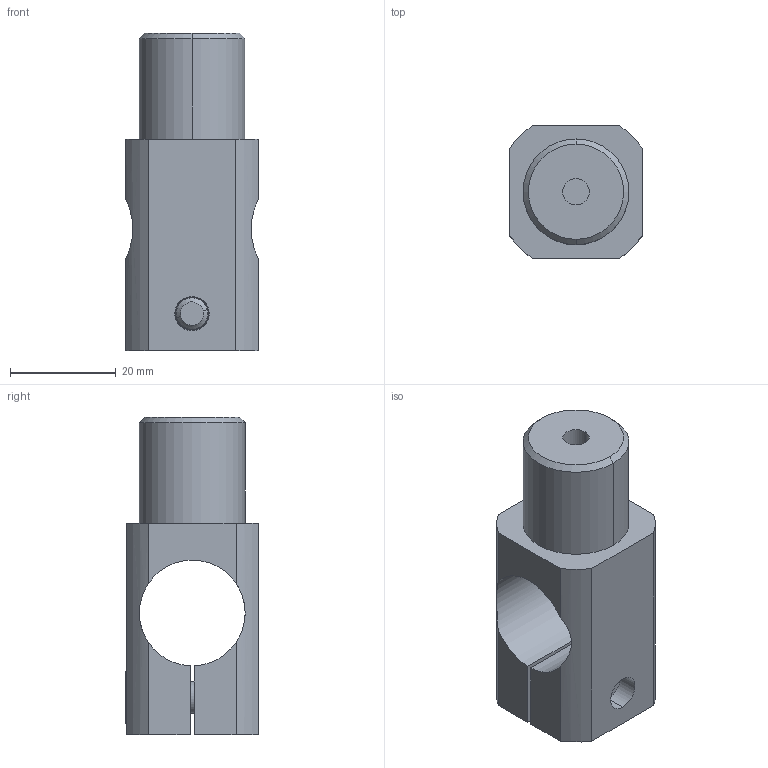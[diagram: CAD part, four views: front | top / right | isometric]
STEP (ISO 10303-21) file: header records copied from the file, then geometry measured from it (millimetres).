
FILE_DESCRIPTION (( 'STEP AP214' ), '1' );
FILE_NAME ('SMBR4-2020M6T.STEP', '2023-01-03T03:09:35', ( 'Windows User' ), ( 'P R C' ), 'SwSTEP 2.0', 'SolidWorks 2018', '' );
FILE_SCHEMA (( 'AUTOMOTIVE_DESIGN' ));
Length unit declared in the file: millimetre
Products named in the file (1): SMBR4-2020M6T
Bounding box: 25 x 25.1 x 60 mm (x, y, z)
Volume: 21198.6 mm3; surface area: 9053.1 mm2
Topology: 3 solids, 3 shells, 201 faces, 570 edges, 378 vertices
Faces by surface type: plane 170, cylinder 23, cone 6, bspline 2
Entity records: 8943 total; most frequent: CARTESIAN_POINT 1268, DIRECTION 1164, ORIENTED_EDGE 1140, EDGE_CURVE 570, AXIS2_PLACEMENT_3D 402, VERTEX_POINT 378, LINE 360, VECTOR 360
